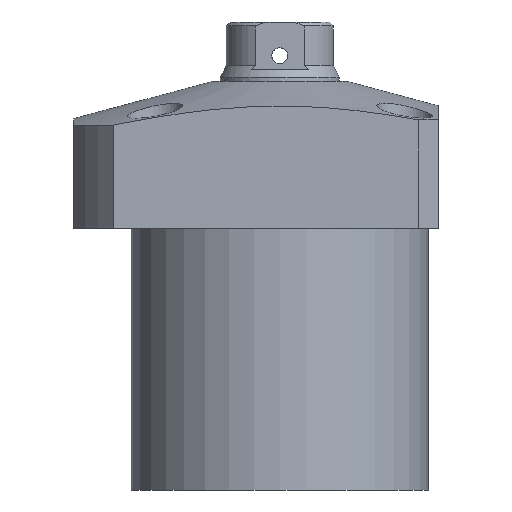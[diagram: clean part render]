
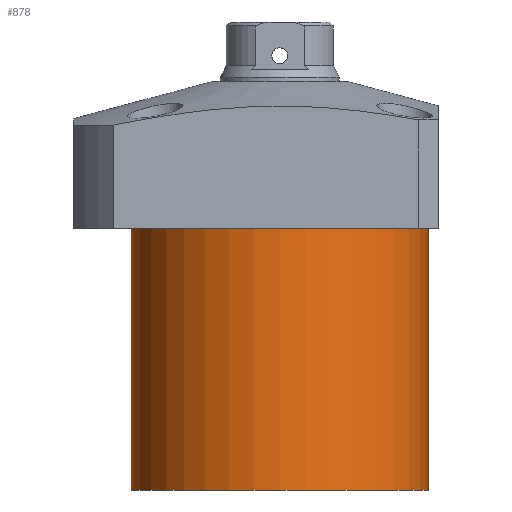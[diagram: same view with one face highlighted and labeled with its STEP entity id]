
A CAD part, front view. The second image highlights one B-rep face of the part: STEP entity #878.
In plain terms, the highlighted cylindrical face has radius 37.5 mm (diameter 75 mm), a partial arc.
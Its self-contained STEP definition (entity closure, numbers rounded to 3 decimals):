
#14 = VERTEX_POINT ( 'NONE', #2022 ) ;
#46 = EDGE_LOOP ( 'NONE', ( #486, #629, #1010, #1351 ) ) ;
#161 = DIRECTION ( 'NONE',  ( -1., 0., 0. ) ) ;
#162 = EDGE_CURVE ( 'NONE', #1519, #14, #2205, .T. ) ;
#232 = LINE ( 'NONE', #863, #1330 ) ;
#486 = ORIENTED_EDGE ( 'NONE', *, *, #911, .F. ) ;
#629 = ORIENTED_EDGE ( 'NONE', *, *, #1576, .F. ) ;
#753 = CYLINDRICAL_SURFACE ( 'NONE', #2331, 37.5 ) ;
#849 = CARTESIAN_POINT ( 'NONE',  ( 0., 0., -84.5 ) ) ;
#863 = CARTESIAN_POINT ( 'NONE',  ( -37.5, 0., -84.5 ) ) ;
#878 = ADVANCED_FACE ( 'NONE', ( #1396 ), #753, .T. ) ;
#911 = EDGE_CURVE ( 'NONE', #1784, #2789, #232, .T. ) ;
#1010 = ORIENTED_EDGE ( 'NONE', *, *, #162, .T. ) ;
#1030 = CARTESIAN_POINT ( 'NONE',  ( 37.5, 0., -84.5 ) ) ;
#1043 = VECTOR ( 'NONE', #1239, 1000. ) ;
#1199 = DIRECTION ( 'NONE',  ( 1., 0., 0. ) ) ;
#1239 = DIRECTION ( 'NONE',  ( 0., 0., 1. ) ) ;
#1252 = CARTESIAN_POINT ( 'NONE',  ( 0., 0., -84.5 ) ) ;
#1270 = DIRECTION ( 'NONE',  ( 0., 0., 1. ) ) ;
#1330 = VECTOR ( 'NONE', #1270, 1000. ) ;
#1351 = ORIENTED_EDGE ( 'NONE', *, *, #2127, .T. ) ;
#1396 = FACE_OUTER_BOUND ( 'NONE', #46, .T. ) ;
#1519 = VERTEX_POINT ( 'NONE', #2066 ) ;
#1576 = EDGE_CURVE ( 'NONE', #1519, #1784, #2250, .T. ) ;
#1784 = VERTEX_POINT ( 'NONE', #2809 ) ;
#1990 = AXIS2_PLACEMENT_3D ( 'NONE', #2256, #2478, #1199 ) ;
#2022 = CARTESIAN_POINT ( 'NONE',  ( 37.5, 0., -18.5 ) ) ;
#2066 = CARTESIAN_POINT ( 'NONE',  ( 37.5, 0., -84.5 ) ) ;
#2080 = CIRCLE ( 'NONE', #1990, 37.5 ) ;
#2127 = EDGE_CURVE ( 'NONE', #14, #2789, #2080, .T. ) ;
#2205 = LINE ( 'NONE', #1030, #1043 ) ;
#2250 = CIRCLE ( 'NONE', #2574, 37.5 ) ;
#2256 = CARTESIAN_POINT ( 'NONE',  ( 0., 0., -18.5 ) ) ;
#2318 = DIRECTION ( 'NONE',  ( 0., 0., -1. ) ) ;
#2331 = AXIS2_PLACEMENT_3D ( 'NONE', #849, #2805, #2335 ) ;
#2335 = DIRECTION ( 'NONE',  ( 1., 0., 0. ) ) ;
#2478 = DIRECTION ( 'NONE',  ( 0., 0., -1. ) ) ;
#2574 = AXIS2_PLACEMENT_3D ( 'NONE', #1252, #2318, #161 ) ;
#2579 = CARTESIAN_POINT ( 'NONE',  ( -37.5, 0., -18.5 ) ) ;
#2789 = VERTEX_POINT ( 'NONE', #2579 ) ;
#2805 = DIRECTION ( 'NONE',  ( 0., 0., 1. ) ) ;
#2809 = CARTESIAN_POINT ( 'NONE',  ( -37.5, 0., -84.5 ) ) ;
